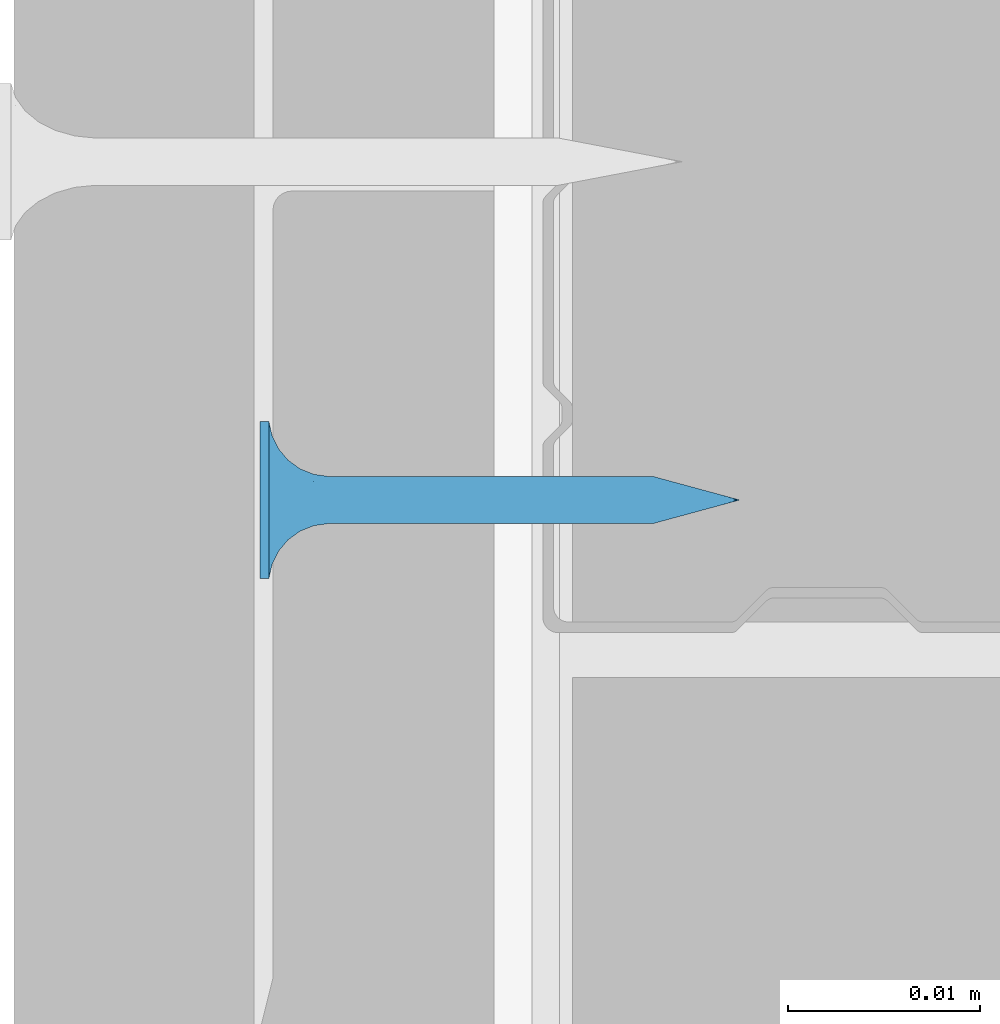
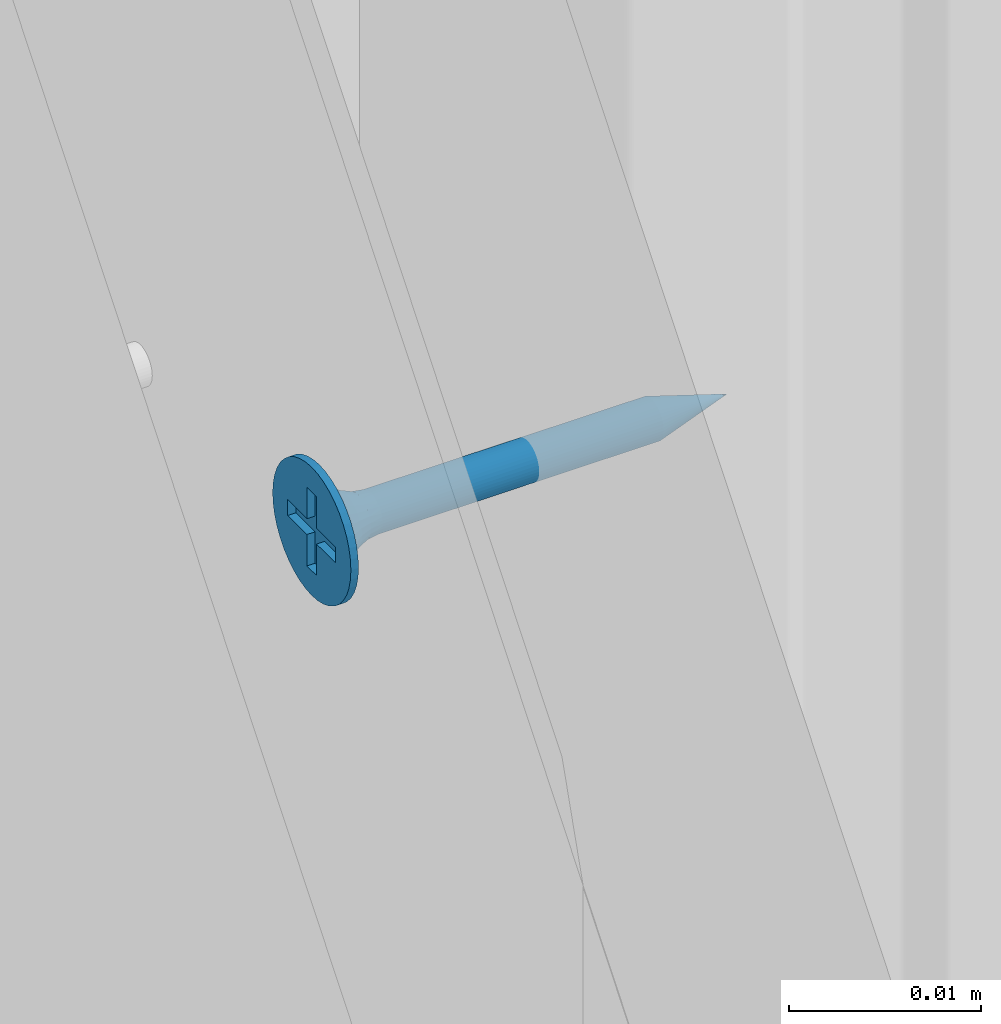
# One storey, part 66 of 92: 1 wall.
"""IFC2X3 building model written with IfcOpenShell, lengths in millimetres."""

from ifc_helpers import new_model, si_unit, frame, origin_with_axes, place, context, subcontext, project, spatial, faceted_brep, material, type_object, element, save


model = new_model("IFC2X3")

# Units and contexts
model_context = context("Model", 3, world=origin_with_axes())
body_context = subcontext(model_context, "Body", "Model", "MODEL_VIEW")
ifc_project = project(units=[si_unit("LENGTHUNIT", "METRE", prefix="MILLI"), si_unit("AREAUNIT", "SQUARE_METRE"), si_unit("VOLUMEUNIT", "CUBIC_METRE")], contexts=[model_context])

# Site, building, storey
site_placement = place(None, origin_with_axes())
site = spatial("IfcSite", under=ifc_project, at=site_placement, Name="Default Site", CompositionType="ELEMENT")
building_placement = place(site_placement, origin_with_axes())
building = spatial("IfcBuilding", under=site, at=building_placement, Name="Default Building", CompositionType="ELEMENT")
storey_placement = place(building_placement, origin_with_axes())
storey = spatial("IfcBuildingStorey", under=building, at=storey_placement, Name="Default Building Storey", CompositionType="ELEMENT", Elevation=0.0)

# Wall
ifc_material = material(Name="Default")
wall_type = type_object("IfcWallType", Name="Wkręt RIGIPS TN 25#19", PredefinedType="NOTDEFINED")
wall_placement = place(storey_placement, frame((3403.841708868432, 584.4634818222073, 1886.1937980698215), z_axis=(0.0, 0.0, 1.0), x_axis=(4.091171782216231e-16, -1.0, 0.0)))
element("IfcWall", 1, at=wall_placement, inside=storey, type_object=wall_type, material=ifc_material, Name="Wkręt RIGIPS TN 25", context=body_context, shape_type="Brep", body=[
    faceted_brep([(-141.48753293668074, -3390.5567221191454, 555.1619773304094), (-141.48753293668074, -3391.0209445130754, 555.1619773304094), (-141.53774659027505, -3391.0209445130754, 555.8000000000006), (-141.53774659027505, -3390.5567221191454, 555.8000000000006), (-141.3381290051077, -3390.5567221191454, 554.5396649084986), (-141.3381290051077, -3391.0209445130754, 554.5396649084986), (-141.09321328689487, -3390.5567221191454, 553.948386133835), (-141.09321328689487, -3391.0209445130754, 553.948386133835), (-140.7588165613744, -3390.5567221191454, 553.4027002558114), (-140.7588165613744, -3391.0209445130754, 553.4027002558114), (-140.34317265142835, -3391.0209445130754, 552.9160436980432), (-140.45417279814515, -3390.5567221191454, 553.0314906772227), (-139.85651609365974, -3391.0209445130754, 552.5003997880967), (-140.1080097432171, -3390.5567221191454, 552.6986613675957), (-139.7251262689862, -3390.5567221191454, 552.4088260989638), (-139.3108302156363, -3391.0209445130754, 552.1660030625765), (-139.3108302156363, -3390.5567221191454, 552.1660030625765), (-138.71955144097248, -3391.0209445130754, 551.9210873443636), (-138.87086516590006, -3390.5567221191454, 551.9735585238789), (-138.41133029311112, -3390.5567221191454, 551.8341602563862), (-138.0972390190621, -3391.0209445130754, 551.7716834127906), (-137.93859616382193, -3390.5567221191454, 551.74974052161), (-137.459216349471, -3391.0209445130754, 551.7214697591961), (-137.459216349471, -3390.5567221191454, 551.7214697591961), (-136.8211936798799, -3390.5567221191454, 551.7716834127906), (-136.8211936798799, -3391.0209445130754, 551.7716834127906), (-136.19888125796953, -3390.5567221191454, 551.9210873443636), (-136.19888125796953, -3391.0209445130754, 551.9210873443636), (-135.6076024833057, -3390.5567221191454, 552.1660030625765), (-135.6076024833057, -3391.0209445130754, 552.1660030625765), (-135.06191660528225, -3390.5567221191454, 552.5003997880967), (-135.06191660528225, -3391.0209445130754, 552.5003997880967), (-134.57526004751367, -3390.5567221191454, 552.9160436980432), (-134.57526004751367, -3391.0209445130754, 552.9160436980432), (-134.15961613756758, -3390.5567221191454, 553.4027002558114), (-134.15961613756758, -3391.0209445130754, 553.4027002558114), (-133.82521941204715, -3390.5567221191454, 553.948386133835), (-133.82521941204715, -3391.0209445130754, 553.948386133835), (-133.5803036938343, -3390.5567221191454, 554.5396649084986), (-133.5803036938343, -3391.0209445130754, 554.5396649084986), (-133.38068610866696, -3391.0209445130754, 555.8000000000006), (-133.38068610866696, -3390.5567221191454, 555.8000000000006), (-133.43089976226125, -3390.5567221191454, 556.4380226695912), (-133.43089976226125, -3391.0209445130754, 556.4380226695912), (-133.43089976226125, -3391.0209445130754, 555.1619773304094), (-133.43089976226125, -3390.5567221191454, 555.1619773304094), (-133.5803036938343, -3390.5567221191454, 557.060335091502), (-133.5803036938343, -3391.0209445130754, 557.060335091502), (-133.82521941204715, -3390.5567221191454, 557.6516138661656), (-133.82521941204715, -3391.0209445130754, 557.6516138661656), (-134.15961613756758, -3390.5567221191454, 558.1972997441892), (-134.15961613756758, -3391.0209445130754, 558.1972997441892), (-134.57526004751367, -3390.5567221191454, 558.6839563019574), (-134.57526004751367, -3391.0209445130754, 558.6839563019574), (-135.06191660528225, -3390.5567221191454, 559.0996002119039), (-135.06191660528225, -3391.0209445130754, 559.0996002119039), (-135.6076024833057, -3390.5567221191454, 559.4339969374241), (-135.6076024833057, -3391.0209445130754, 559.4339969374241), (-136.19888125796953, -3390.5567221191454, 559.678912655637), (-136.19888125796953, -3391.0209445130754, 559.678912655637), (-136.8211936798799, -3390.5567221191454, 559.82831658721), (-136.8211936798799, -3391.0209445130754, 559.82831658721), (-137.459216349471, -3390.5567221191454, 559.8785302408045), (-137.459216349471, -3391.0209445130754, 559.8785302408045), (-138.0972390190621, -3390.5567221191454, 559.82831658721), (-138.0972390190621, -3391.0209445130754, 559.82831658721), (-138.71955144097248, -3390.5567221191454, 559.678912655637), (-138.71955144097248, -3391.0209445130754, 559.678912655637), (-139.3108302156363, -3390.5567221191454, 559.4339969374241), (-139.3108302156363, -3391.0209445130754, 559.4339969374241), (-139.85651609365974, -3390.5567221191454, 559.0996002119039), (-139.85651609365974, -3391.0209445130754, 559.0996002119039), (-140.34317265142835, -3390.5567221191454, 558.6839563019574), (-140.34317265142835, -3391.0209445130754, 558.6839563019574), (-140.7588165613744, -3390.5567221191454, 558.1972997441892), (-140.7588165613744, -3391.0209445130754, 558.1972997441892), (-141.09321328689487, -3390.5567221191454, 557.6516138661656), (-141.09321328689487, -3391.0209445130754, 557.6516138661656), (-141.3381290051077, -3390.5567221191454, 557.060335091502), (-141.3381290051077, -3391.0209445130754, 557.060335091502), (-141.48753293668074, -3390.5567221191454, 556.4380226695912), (-141.48753293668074, -3391.0209445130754, 556.4380226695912), (-137.65172779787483, -3387.475459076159, 554.5845305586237), (-137.459216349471, -3387.475459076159, 554.5693795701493), (-137.80606153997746, -3388.2297325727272, 554.5055561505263), (-137.459216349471, -3388.2297325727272, 554.4598930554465), (-137.83949898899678, -3387.475459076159, 554.6296104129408), (-138.1292698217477, -3388.2297325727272, 554.6394333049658), (-138.01790634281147, -3387.475459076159, 554.7035091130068), (-138.18255689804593, -3387.475459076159, 554.8044072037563), (-138.40681506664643, -3388.2297325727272, 554.8524012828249), (-138.3293964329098, -3387.475459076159, 554.9298199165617), (-138.45480914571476, -3387.475459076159, 555.0766594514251), (-138.6197830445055, -3388.2297325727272, 555.1299465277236), (-138.55570723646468, -3387.475459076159, 555.2413100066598), (-138.75366019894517, -3388.2297325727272, 555.453154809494), (-138.6296059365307, -3387.475459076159, 555.4197173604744), (-138.67468579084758, -3387.475459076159, 555.6074885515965), (-138.7993232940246, -3388.2297325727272, 555.7999999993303), (-138.6898367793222, -3387.475459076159, 555.8000000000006), (-138.67468579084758, -3387.475459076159, 555.9925114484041), (-138.75366019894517, -3388.2297325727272, 556.1468451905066), (-138.6296059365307, -3387.475459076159, 556.1802826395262), (-138.6197830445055, -3388.2297325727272, 556.470053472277), (-138.55570723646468, -3387.475459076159, 556.3586899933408), (-138.45480914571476, -3387.475459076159, 556.5233405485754), (-138.40681506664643, -3388.2297325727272, 556.7475987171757), (-138.3293964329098, -3387.475459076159, 556.6701800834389), (-138.18255689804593, -3387.475459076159, 556.7955927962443), (-138.1292698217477, -3388.2297325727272, 556.9605666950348), (-138.01790634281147, -3387.475459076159, 556.8964908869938), (-137.80606153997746, -3388.2297325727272, 557.0944438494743), (-137.83949898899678, -3387.475459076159, 556.9703895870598), (-137.65172779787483, -3387.475459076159, 557.0154694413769), (-137.459216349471, -3388.2297325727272, 557.1401069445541), (-137.459216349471, -3387.475459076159, 557.0306204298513), (-137.26670490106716, -3387.475459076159, 557.0154694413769), (-137.11237115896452, -3388.2297325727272, 557.0944438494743), (-137.07893370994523, -3387.475459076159, 556.9703895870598), (-136.78916287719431, -3388.2297325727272, 556.9605666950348), (-136.90052635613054, -3387.475459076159, 556.8964908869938), (-136.73587580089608, -3387.475459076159, 556.7955927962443), (-136.51161763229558, -3388.2297325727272, 556.7475987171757), (-136.58903626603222, -3387.475459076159, 556.6701800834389), (-136.46362355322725, -3387.475459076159, 556.5233405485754), (-136.2986496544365, -3388.2297325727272, 556.470053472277), (-136.3627254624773, -3387.475459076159, 556.3586899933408), (-136.16477249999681, -3388.2297325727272, 556.1468451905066), (-136.28882676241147, -3387.475459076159, 556.1802826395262), (-136.2437469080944, -3387.475459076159, 555.9925114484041), (-136.11910940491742, -3388.2297325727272, 555.7999999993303), (-136.22859591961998, -3387.475459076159, 555.8000000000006), (-136.2437469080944, -3387.475459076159, 555.6074885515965), (-136.16477249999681, -3388.2297325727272, 555.453154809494), (-136.28882676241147, -3387.475459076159, 555.4197173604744), (-136.2986496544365, -3388.2297325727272, 555.1299465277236), (-136.3627254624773, -3387.475459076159, 555.2413100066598), (-136.46362355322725, -3387.475459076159, 555.0766594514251), (-136.51161763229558, -3388.2297325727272, 554.8524012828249), (-136.58903626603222, -3387.475459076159, 554.9298199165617), (-136.73587580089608, -3387.475459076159, 554.8044072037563), (-136.78916287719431, -3388.2297325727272, 554.6394333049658), (-136.90052635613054, -3387.475459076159, 554.7035091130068), (-137.11237115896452, -3388.2297325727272, 554.5055561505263), (-137.07893370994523, -3387.475459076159, 554.6296104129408), (-137.26670490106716, -3387.475459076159, 554.5845305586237), (-137.459216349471, -3388.9361426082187, 554.1737111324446), (-137.8801308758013, -3388.9361426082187, 554.2291255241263), (-138.2723607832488, -3388.9361426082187, 554.3915925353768), (-138.60917621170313, -3388.9361426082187, 554.6500401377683), (-138.86762381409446, -3388.9361426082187, 554.9868555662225), (-139.03009082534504, -3388.9361426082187, 555.3790854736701), (-139.08550521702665, -3388.9361426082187, 555.7999999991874), (-139.03009082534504, -3388.9361426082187, 556.2209145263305), (-138.86762381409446, -3388.9361426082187, 556.6131444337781), (-138.60917621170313, -3388.9361426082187, 556.9499598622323), (-138.2723607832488, -3388.9361426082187, 557.2084074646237), (-137.8801308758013, -3388.9361426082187, 557.3708744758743), (-137.459216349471, -3388.9361426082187, 557.426288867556), (-137.03830182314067, -3388.9361426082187, 557.3708744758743), (-136.64607191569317, -3388.9361426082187, 557.2084074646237), (-136.30925648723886, -3388.9361426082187, 556.9499598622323), (-136.05080888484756, -3388.9361426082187, 556.6131444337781), (-135.88834187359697, -3388.9361426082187, 556.2209145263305), (-135.83292748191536, -3388.9361426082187, 555.7999999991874), (-135.88834187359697, -3388.9361426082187, 555.3790854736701), (-136.05080888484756, -3388.9361426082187, 554.9868555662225), (-136.30925648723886, -3388.9361426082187, 554.6500401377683), (-136.64607191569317, -3388.9361426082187, 554.3915925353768), (-137.03830182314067, -3388.9361426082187, 554.2291255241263), (-137.459216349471, -3389.5539382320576, 553.7273430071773), (-137.99565943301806, -3389.5539382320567, 553.7979670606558), (-138.4955448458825, -3389.5539382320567, 554.0050264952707), (-138.92480608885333, -3389.5539382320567, 554.3344102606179), (-139.25418985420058, -3389.5539382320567, 554.7636715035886), (-139.46124928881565, -3389.5539382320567, 555.2635569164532), (-139.5318733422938, -3389.5539382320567, 555.799999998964), (-139.46124928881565, -3389.5539382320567, 556.3364430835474), (-139.25418985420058, -3389.5539382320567, 556.836328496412), (-138.92480608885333, -3389.5539382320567, 557.2655897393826), (-138.4955448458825, -3389.5539382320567, 557.5949735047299), (-137.99565943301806, -3389.5539382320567, 557.8020329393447), (-137.459216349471, -3389.5539382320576, 557.8726569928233), (-136.92277326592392, -3389.5539382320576, 557.8020329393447), (-136.4228878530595, -3389.5539382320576, 557.5949735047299), (-135.99362661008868, -3389.5539382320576, 557.2655897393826), (-135.6642428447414, -3389.5539382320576, 556.836328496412), (-135.45718341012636, -3389.5539382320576, 556.3364430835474), (-135.3865593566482, -3389.5539382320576, 555.799999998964), (-135.45718341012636, -3389.5539382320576, 555.2635569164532), (-135.6642428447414, -3389.5539382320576, 554.7636715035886), (-135.99362661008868, -3389.5539382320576, 554.3344102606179), (-136.4228878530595, -3389.5539382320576, 554.0050264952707), (-136.92277326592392, -3389.5539382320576, 553.7979670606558), (-137.459216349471, -3390.047479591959, 553.1465392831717), (-138.14598252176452, -3390.047479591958, 553.2369539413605), (-138.7859467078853, -3390.047479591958, 553.5020355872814), (-139.33549641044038, -3390.047479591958, 553.9237199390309), (-139.75718076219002, -3390.047479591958, 554.4732696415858), (-140.02226240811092, -3390.047479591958, 555.1132338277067), (-140.11267706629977, -3390.047479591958, 555.7999999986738), (-140.02226240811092, -3390.047479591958, 556.4867661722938), (-139.75718076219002, -3390.047479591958, 557.1267303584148), (-139.33549641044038, -3390.047479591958, 557.6762800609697), (-138.7859467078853, -3390.047479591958, 558.0979644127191), (-138.14598252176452, -3390.047479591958, 558.3630460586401), (-137.459216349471, -3390.047479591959, 558.4534607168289), (-136.7724501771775, -3390.047479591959, 558.3630460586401), (-136.1324859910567, -3390.047479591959, 558.0979644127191), (-135.58293628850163, -3390.047479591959, 557.6762800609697), (-135.161251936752, -3390.047479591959, 557.1267303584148), (-134.8961702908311, -3390.047479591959, 556.4867661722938), (-134.80575563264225, -3390.047479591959, 555.7999999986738), (-134.8961702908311, -3390.047479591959, 555.1132338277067), (-135.161251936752, -3390.047479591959, 554.4732696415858), (-135.58293628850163, -3390.047479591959, 553.9237199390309), (-136.1324859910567, -3390.047479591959, 553.5020355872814), (-136.7724501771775, -3390.047479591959, 553.2369539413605), (-137.459216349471, -3390.3882942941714, 552.4648055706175), (-138.32242816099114, -3390.3882942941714, 552.5784495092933), (-139.12681356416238, -3390.3882942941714, 552.9116369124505), (-139.81755491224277, -3390.3882942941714, 553.4416614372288), (-140.34757943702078, -3390.3882942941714, 554.1324027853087), (-140.68076684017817, -3390.3882942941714, 554.9367881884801), (-140.79441077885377, -3390.3882942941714, 555.7999999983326), (-140.68076684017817, -3390.3882942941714, 556.6632118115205), (-140.34757943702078, -3390.3882942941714, 557.4675972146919), (-139.81755491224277, -3390.3882942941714, 558.1583385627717), (-139.12681356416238, -3390.3882942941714, 558.6883630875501), (-138.32242816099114, -3390.3882942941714, 559.0215504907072), (-137.459216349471, -3390.3882942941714, 559.1351944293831), (-136.59600453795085, -3390.3882942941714, 559.0215504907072), (-135.7916191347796, -3390.3882942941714, 558.6883630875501), (-135.1008777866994, -3390.3882942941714, 558.1583385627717), (-134.57085326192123, -3390.3882942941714, 557.4675972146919), (-134.23766585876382, -3390.3882942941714, 556.6632118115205), (-134.12402192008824, -3390.3882942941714, 555.7999999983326), (-134.23766585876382, -3390.3882942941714, 554.9367881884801), (-134.57085326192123, -3390.3882942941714, 554.1324027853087), (-135.1008777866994, -3390.3882942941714, 553.4416614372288), (-135.7916191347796, -3390.3882942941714, 552.9116369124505), (-136.59600453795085, -3390.3882942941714, 552.5784495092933), (-138.67468579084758, -3370.558073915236, 555.6074885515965), (-138.68983677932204, -3370.558073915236, 555.8000000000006), (-138.6296059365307, -3370.558073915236, 555.4197173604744), (-138.55570723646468, -3370.558073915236, 555.2413100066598), (-138.45480914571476, -3370.558073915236, 555.0766594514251), (-138.3293964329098, -3370.558073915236, 554.9298199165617), (-138.18255689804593, -3370.558073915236, 554.8044072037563), (-138.01790634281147, -3370.558073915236, 554.7035091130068), (-137.83949898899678, -3370.558073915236, 554.6296104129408), (-137.65172779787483, -3370.558073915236, 554.5845305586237), (-137.45921634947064, -3370.558073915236, 554.5693795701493), (-137.26670490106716, -3370.558073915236, 554.5845305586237), (-137.07893370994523, -3370.558073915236, 554.6296104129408), (-136.90052635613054, -3370.558073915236, 554.7035091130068), (-136.73587580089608, -3370.558073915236, 554.8044072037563), (-136.58903626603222, -3370.558073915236, 554.9298199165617), (-136.46362355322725, -3370.558073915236, 555.0766594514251), (-136.3627254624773, -3370.558073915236, 555.2413100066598), (-136.2888267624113, -3370.558073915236, 555.4197173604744), (-136.2285959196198, -3370.558073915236, 555.8000000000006), (-136.2437469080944, -3370.558073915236, 555.9925114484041), (-136.2437469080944, -3370.558073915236, 555.6074885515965), (-136.2888267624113, -3370.558073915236, 556.1802826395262), (-136.3627254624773, -3370.558073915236, 556.3586899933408), (-136.46362355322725, -3370.558073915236, 556.5233405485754), (-136.58903626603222, -3370.558073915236, 556.6701800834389), (-136.73587580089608, -3370.558073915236, 556.7955927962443), (-136.90052635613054, -3370.558073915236, 556.8964908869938), (-137.07893370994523, -3370.558073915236, 556.9703895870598), (-137.26670490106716, -3370.558073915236, 557.0154694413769), (-137.45921634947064, -3370.558073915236, 557.0306204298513), (-137.65172779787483, -3370.558073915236, 557.0154694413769), (-137.83949898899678, -3370.558073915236, 556.9703895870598), (-138.01790634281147, -3370.558073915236, 556.8964908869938), (-138.18255689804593, -3370.558073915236, 556.7955927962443), (-138.3293964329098, -3370.558073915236, 556.6701800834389), (-138.45480914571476, -3370.558073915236, 556.5233405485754), (-138.55570723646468, -3370.558073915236, 556.3586899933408), (-138.6296059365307, -3370.558073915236, 556.1802826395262), (-138.67468579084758, -3370.558073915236, 555.9925114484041), (-137.45921634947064, -3366.0210335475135, 555.8000000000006), (-139.9592162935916, -3391.0209445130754, 555.2999999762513), (-139.9592162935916, -3391.0209445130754, 556.3000000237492), (-137.9592163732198, -3391.0209445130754, 556.3000000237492), (-137.9592163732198, -3391.0209445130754, 558.2999999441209), (-136.95921632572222, -3391.0209445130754, 558.2999999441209), (-136.95921632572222, -3391.0209445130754, 556.3000000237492), (-134.9592164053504, -3391.0209445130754, 556.3000000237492), (-134.9592164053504, -3391.0209445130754, 555.2999999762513), (-136.95921632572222, -3391.0209445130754, 555.2999999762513), (-136.95921632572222, -3391.0209445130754, 553.3000000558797), (-137.9592163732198, -3391.0209445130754, 553.3000000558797), (-137.9592163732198, -3391.0209445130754, 555.2999999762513), (-136.95921632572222, -3390.5289749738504, 558.2999999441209), (-137.9592163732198, -3390.5289749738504, 558.2999999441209), (-137.9592163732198, -3390.5289749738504, 556.3000000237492), (-139.9592162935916, -3390.5289749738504, 556.3000000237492), (-139.9592162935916, -3390.5289749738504, 555.2999999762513), (-137.9592163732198, -3390.5289749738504, 555.2999999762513), (-137.9592163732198, -3390.5289749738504, 553.3000000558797), (-136.95921632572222, -3390.5289749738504, 553.3000000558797), (-136.95921632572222, -3390.5289749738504, 555.2999999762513), (-134.9592164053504, -3390.5289749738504, 555.2999999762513), (-134.9592164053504, -3390.5289749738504, 556.3000000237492), (-136.95921632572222, -3390.5289749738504, 556.3000000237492)], [[[0, 1, 2, 3]], [[1, 0, 4, 5]], [[5, 4, 6, 7]], [[8, 9, 7, 6]], [[8, 10, 9]], [[8, 11, 10]], [[12, 11, 13]], [[12, 10, 11]], [[13, 14, 12]], [[14, 15, 12]], [[14, 16, 15]], [[17, 16, 18]], [[17, 15, 16]], [[18, 19, 17]], [[20, 19, 21]], [[20, 17, 19]], [[21, 22, 20]], [[21, 23, 22]], [[24, 25, 22, 23]], [[25, 24, 26, 27]], [[27, 26, 28, 29]], [[30, 31, 29, 28]], [[31, 30, 32, 33]], [[34, 35, 33, 32]], [[35, 34, 36, 37]], [[37, 36, 38, 39]], [[40, 41, 42, 43]], [[44, 45, 41, 40]], [[45, 44, 39, 38]], [[43, 42, 46, 47]], [[47, 46, 48, 49]], [[50, 51, 49, 48]], [[51, 50, 52, 53]], [[54, 55, 53, 52]], [[55, 54, 56, 57]], [[57, 56, 58, 59]], [[60, 61, 59, 58]], [[61, 60, 62, 63]], [[64, 65, 63, 62]], [[65, 64, 66, 67]], [[67, 66, 68, 69]], [[70, 71, 69, 68]], [[71, 70, 72, 73]], [[74, 75, 73, 72]], [[75, 74, 76, 77]], [[77, 76, 78, 79]], [[80, 81, 79, 78]], [[81, 80, 3, 2]], [[82, 83, 84]], [[83, 85, 84]], [[84, 86, 82]], [[84, 87, 88, 86]], [[89, 88, 87]], [[87, 90, 89]], [[90, 91, 89]], [[92, 91, 93]], [[91, 90, 93]], [[93, 94, 92]], [[93, 95, 96, 94]], [[97, 96, 95]], [[95, 98, 97]], [[98, 99, 97]], [[100, 99, 101]], [[99, 98, 101]], [[101, 102, 100]], [[101, 103, 104, 102]], [[105, 104, 103]], [[103, 106, 105]], [[106, 107, 105]], [[108, 107, 109]], [[107, 106, 109]], [[109, 110, 108]], [[109, 111, 112, 110]], [[113, 112, 111]], [[111, 114, 113]], [[114, 115, 113]], [[116, 115, 117]], [[115, 114, 117]], [[117, 118, 116]], [[117, 119, 120, 118]], [[121, 120, 119]], [[119, 122, 121]], [[122, 123, 121]], [[124, 123, 125]], [[123, 122, 125]], [[125, 126, 124]], [[125, 127, 128, 126]], [[129, 128, 127]], [[127, 130, 129]], [[130, 131, 129]], [[132, 131, 133]], [[131, 130, 133]], [[133, 134, 132]], [[133, 135, 136, 134]], [[137, 136, 135]], [[135, 138, 137]], [[138, 139, 137]], [[140, 139, 141]], [[139, 138, 141]], [[141, 142, 140]], [[141, 143, 144, 142]], [[145, 144, 143]], [[143, 85, 145]], [[85, 83, 145]], [[146, 147, 84, 85]], [[84, 147, 148, 87]], [[87, 148, 149, 90]], [[90, 149, 150, 93]], [[93, 150, 151, 95]], [[95, 151, 152, 98]], [[98, 152, 153, 101]], [[101, 153, 154, 103]], [[103, 154, 155, 106]], [[106, 155, 156, 109]], [[109, 156, 157, 111]], [[111, 157, 158, 114]], [[114, 158, 159, 117]], [[117, 159, 160, 119]], [[119, 160, 161, 122]], [[122, 161, 162, 125]], [[125, 162, 163, 127]], [[127, 163, 164, 130]], [[130, 164, 165, 133]], [[133, 165, 166, 135]], [[135, 166, 167, 138]], [[138, 167, 168, 141]], [[141, 168, 169, 143]], [[143, 169, 146, 85]], [[170, 171, 147, 146]], [[147, 171, 172, 148]], [[148, 172, 173, 149]], [[149, 173, 174, 150]], [[150, 174, 175, 151]], [[151, 175, 176, 152]], [[152, 176, 177, 153]], [[153, 177, 178, 154]], [[154, 178, 179, 155]], [[155, 179, 180, 156]], [[156, 180, 181, 157]], [[157, 181, 182, 158]], [[158, 182, 183, 159]], [[159, 183, 184, 160]], [[160, 184, 185, 161]], [[161, 185, 186, 162]], [[162, 186, 187, 163]], [[163, 187, 188, 164]], [[164, 188, 189, 165]], [[165, 189, 190, 166]], [[166, 190, 191, 167]], [[167, 191, 192, 168]], [[168, 192, 193, 169]], [[169, 193, 170, 146]], [[194, 195, 171, 170]], [[171, 195, 196, 172]], [[172, 196, 197, 173]], [[173, 197, 198, 174]], [[174, 198, 199, 175]], [[175, 199, 200, 176]], [[176, 200, 201, 177]], [[177, 201, 202, 178]], [[178, 202, 203, 179]], [[179, 203, 204, 180]], [[180, 204, 205, 181]], [[181, 205, 206, 182]], [[182, 206, 207, 183]], [[183, 207, 208, 184]], [[184, 208, 209, 185]], [[185, 209, 210, 186]], [[186, 210, 211, 187]], [[187, 211, 212, 188]], [[188, 212, 213, 189]], [[189, 213, 214, 190]], [[190, 214, 215, 191]], [[191, 215, 216, 192]], [[192, 216, 217, 193]], [[193, 217, 194, 170]], [[21, 19, 218]], [[19, 219, 218]], [[218, 23, 21]], [[218, 219, 195, 194]], [[18, 16, 219]], [[16, 220, 219]], [[219, 19, 18]], [[195, 219, 220, 196]], [[13, 11, 221]], [[14, 13, 220]], [[13, 221, 220]], [[220, 16, 14]], [[196, 220, 221, 197]], [[8, 6, 222]], [[222, 221, 8]], [[221, 11, 8]], [[197, 221, 222, 198]], [[4, 223, 222, 6]], [[198, 222, 223, 199]], [[0, 3, 223]], [[3, 224, 223]], [[223, 4, 0]], [[199, 223, 224, 200]], [[80, 78, 225]], [[225, 224, 80]], [[224, 3, 80]], [[200, 224, 225, 201]], [[78, 76, 226, 225]], [[201, 225, 226, 202]], [[74, 72, 226]], [[72, 227, 226]], [[226, 76, 74]], [[202, 226, 227, 203]], [[70, 68, 228]], [[228, 227, 70]], [[227, 72, 70]], [[203, 227, 228, 204]], [[68, 66, 229, 228]], [[204, 228, 229, 205]], [[64, 62, 229]], [[62, 230, 229]], [[229, 66, 64]], [[205, 229, 230, 206]], [[60, 58, 231]], [[231, 230, 60]], [[230, 62, 60]], [[206, 230, 231, 207]], [[58, 56, 232, 231]], [[207, 231, 232, 208]], [[54, 52, 232]], [[52, 233, 232]], [[232, 56, 54]], [[208, 232, 233, 209]], [[50, 48, 234]], [[234, 233, 50]], [[233, 52, 50]], [[209, 233, 234, 210]], [[48, 46, 235, 234]], [[210, 234, 235, 211]], [[42, 41, 235]], [[41, 236, 235]], [[235, 46, 42]], [[211, 235, 236, 212]], [[45, 38, 237]], [[237, 236, 45]], [[236, 41, 45]], [[212, 236, 237, 213]], [[36, 238, 237, 38]], [[213, 237, 238, 214]], [[34, 32, 238]], [[32, 239, 238]], [[238, 36, 34]], [[214, 238, 239, 215]], [[30, 28, 240]], [[240, 239, 30]], [[239, 32, 30]], [[215, 239, 240, 216]], [[26, 241, 240, 28]], [[216, 240, 241, 217]], [[217, 241, 218, 194]], [[24, 23, 241]], [[23, 218, 241]], [[241, 26, 24]], [[242, 97, 99, 243]], [[97, 242, 244, 96]], [[96, 244, 245, 94]], [[246, 92, 94, 245]], [[92, 246, 247, 91]], [[248, 89, 91, 247]], [[89, 248, 249, 88]], [[88, 249, 250, 86]], [[251, 82, 86, 250]], [[82, 251, 252, 83]], [[253, 145, 83, 252]], [[145, 253, 254, 144]], [[144, 254, 255, 142]], [[256, 140, 142, 255]], [[140, 256, 257, 139]], [[258, 137, 139, 257]], [[137, 258, 259, 136]], [[136, 259, 260, 134]], [[131, 261, 262, 129]], [[132, 263, 261, 131]], [[263, 132, 134, 260]], [[129, 262, 264, 128]], [[128, 264, 265, 126]], [[266, 124, 126, 265]], [[124, 266, 267, 123]], [[268, 121, 123, 267]], [[121, 268, 269, 120]], [[120, 269, 270, 118]], [[271, 116, 118, 270]], [[116, 271, 272, 115]], [[273, 113, 115, 272]], [[113, 273, 274, 112]], [[112, 274, 275, 110]], [[276, 108, 110, 275]], [[108, 276, 277, 107]], [[278, 105, 107, 277]], [[105, 278, 279, 104]], [[104, 279, 280, 102]], [[281, 100, 102, 280]], [[100, 281, 243, 99]], [[282, 244, 242]], [[242, 243, 282]], [[282, 245, 244]], [[282, 247, 246]], [[246, 245, 282]], [[282, 249, 248]], [[248, 247, 282]], [[282, 250, 249]], [[282, 252, 251]], [[251, 250, 282]], [[282, 254, 253]], [[253, 252, 282]], [[282, 255, 254]], [[282, 257, 256]], [[256, 255, 282]], [[282, 259, 258]], [[258, 257, 282]], [[282, 260, 259]], [[282, 261, 263]], [[263, 260, 282]], [[282, 264, 262]], [[262, 261, 282]], [[282, 265, 264]], [[282, 267, 266]], [[266, 265, 282]], [[282, 269, 268]], [[268, 267, 282]], [[282, 270, 269]], [[282, 272, 271]], [[271, 270, 282]], [[282, 274, 273]], [[273, 272, 282]], [[282, 275, 274]], [[282, 277, 276]], [[276, 275, 282]], [[282, 279, 278]], [[278, 277, 282]], [[282, 280, 279]], [[282, 243, 281]], [[281, 280, 282]], [[75, 77, 79, 81, 2, 1, 5, 7, 9, 10, 12, 15, 17, 20, 22, 25, 27, 29, 31, 33, 35, 37, 39, 44, 40, 43, 47, 49, 51, 53, 55, 57, 59, 61, 63, 65, 67, 69, 71, 73], [283, 284, 285, 286, 287, 288, 289, 290, 291, 292, 293, 294]], [[295, 296, 297, 298, 299, 300, 301, 302, 303, 304, 305, 306]], [[303, 291, 290, 304]], [[304, 290, 289, 305]], [[305, 289, 288, 306]], [[306, 288, 287, 295]], [[295, 287, 286, 296]], [[296, 286, 285, 297]], [[297, 285, 284, 298]], [[298, 284, 283, 299]], [[299, 283, 294, 300]], [[300, 294, 293, 301]], [[301, 293, 292, 302]], [[302, 292, 291, 303]]]),
])

save(model, "model.ifc")
